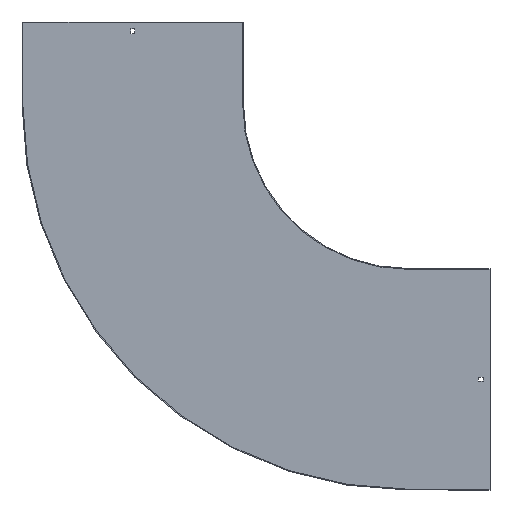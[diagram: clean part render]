
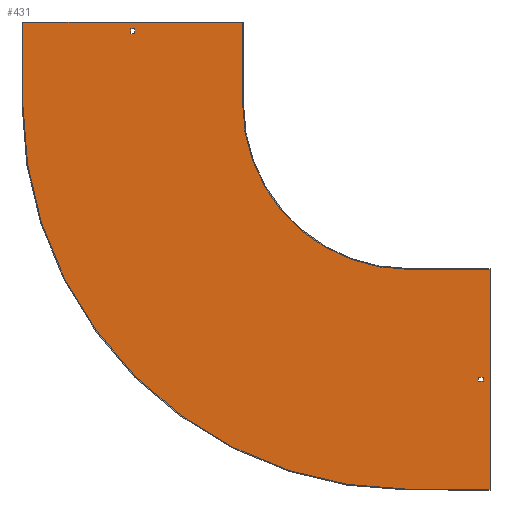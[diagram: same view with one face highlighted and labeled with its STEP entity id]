
A CAD part, front view. The second image highlights one B-rep face of the part: STEP entity #431.
In plain terms, the highlighted planar face has unit normal (0, -1, 0).
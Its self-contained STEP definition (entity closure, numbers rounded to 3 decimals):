
#2 = CARTESIAN_POINT ( 'NONE',  ( 0., -1.5, 0. ) ) ;
#7 = FACE_BOUND ( 'NONE', #404, .T. ) ;
#10 = EDGE_CURVE ( 'NONE', #283, #754, #175, .T. ) ;
#11 = FACE_BOUND ( 'NONE', #207, .T. ) ;
#24 = VECTOR ( 'NONE', #595, 1000. ) ;
#34 = EDGE_CURVE ( 'NONE', #287, #88, #171, .T. ) ;
#37 = VERTEX_POINT ( 'NONE', #853 ) ;
#40 = VERTEX_POINT ( 'NONE', #235 ) ;
#43 = VERTEX_POINT ( 'NONE', #639 ) ;
#53 = LINE ( 'NONE', #119, #328 ) ;
#56 = CARTESIAN_POINT ( 'NONE',  ( -300., -1.5, 0. ) ) ;
#60 = CARTESIAN_POINT ( 'NONE',  ( 138., -1.5, 0. ) ) ;
#62 = VERTEX_POINT ( 'NONE', #634 ) ;
#63 = DIRECTION ( 'NONE',  ( 0., 0., 1. ) ) ;
#67 = VECTOR ( 'NONE', #274, 1000. ) ;
#69 = CARTESIAN_POINT ( 'NONE',  ( -503.25, -1.5, 129. ) ) ;
#75 = CARTESIAN_POINT ( 'NONE',  ( 150., -1.5, -298.5 ) ) ;
#88 = VERTEX_POINT ( 'NONE', #658 ) ;
#102 = VERTEX_POINT ( 'NONE', #402 ) ;
#112 = CARTESIAN_POINT ( 'NONE',  ( 0., -1.5, 0. ) ) ;
#113 = CARTESIAN_POINT ( 'NONE',  ( 129., -1.5, -503.25 ) ) ;
#119 = CARTESIAN_POINT ( 'NONE',  ( -503.25, -1.5, 0. ) ) ;
#139 = LINE ( 'NONE', #418, #712 ) ;
#157 = ORIENTED_EDGE ( 'NONE', *, *, #823, .T. ) ;
#159 = AXIS2_PLACEMENT_3D ( 'NONE', #112, #371, #838 ) ;
#164 = EDGE_CURVE ( 'NONE', #40, #37, #315, .T. ) ;
#171 = CIRCLE ( 'NONE', #159, 300. ) ;
#175 = LINE ( 'NONE', #447, #652 ) ;
#188 = VERTEX_POINT ( 'NONE', #467 ) ;
#191 = CARTESIAN_POINT ( 'NONE',  ( 0., -1.5, -700. ) ) ;
#207 = EDGE_LOOP ( 'NONE', ( #157, #261, #301, #381 ) ) ;
#212 = DIRECTION ( 'NONE',  ( 0., 0., -1. ) ) ;
#217 = CARTESIAN_POINT ( 'NONE',  ( 0., -1.5, -503.25 ) ) ;
#221 = ORIENTED_EDGE ( 'NONE', *, *, #500, .F. ) ;
#230 = VECTOR ( 'NONE', #396, 1000. ) ;
#235 = CARTESIAN_POINT ( 'NONE',  ( 138., -1.5, -503.25 ) ) ;
#249 = VECTOR ( 'NONE', #527, 1000. ) ;
#250 = LINE ( 'NONE', #805, #249 ) ;
#251 = VECTOR ( 'NONE', #629, 1000. ) ;
#261 = ORIENTED_EDGE ( 'NONE', *, *, #451, .T. ) ;
#262 = DIRECTION ( 'NONE',  ( 0., -1., 0. ) ) ;
#274 = DIRECTION ( 'NONE',  ( 0., 0., -1. ) ) ;
#277 = AXIS2_PLACEMENT_3D ( 'NONE', #327, #743, #609 ) ;
#283 = VERTEX_POINT ( 'NONE', #468 ) ;
#286 = EDGE_CURVE ( 'NONE', #539, #708, #550, .T. ) ;
#287 = VERTEX_POINT ( 'NONE', #56 ) ;
#288 = VECTOR ( 'NONE', #305, 1000. ) ;
#289 = LINE ( 'NONE', #464, #427 ) ;
#301 = ORIENTED_EDGE ( 'NONE', *, *, #651, .T. ) ;
#302 = VERTEX_POINT ( 'NONE', #463 ) ;
#305 = DIRECTION ( 'NONE',  ( -1., 0., 0. ) ) ;
#315 = LINE ( 'NONE', #60, #230 ) ;
#323 = ORIENTED_EDGE ( 'NONE', *, *, #34, .F. ) ;
#326 = VECTOR ( 'NONE', #759, 1000. ) ;
#327 = CARTESIAN_POINT ( 'NONE',  ( 0., -1.5, 0. ) ) ;
#328 = VECTOR ( 'NONE', #63, 1000. ) ;
#341 = ORIENTED_EDGE ( 'NONE', *, *, #10, .F. ) ;
#347 = ORIENTED_EDGE ( 'NONE', *, *, #675, .F. ) ;
#350 = CARTESIAN_POINT ( 'NONE',  ( -700., -1.5, 0. ) ) ;
#351 = FACE_OUTER_BOUND ( 'NONE', #619, .T. ) ;
#355 = EDGE_CURVE ( 'NONE', #88, #62, #530, .T. ) ;
#361 = ORIENTED_EDGE ( 'NONE', *, *, #164, .F. ) ;
#368 = ORIENTED_EDGE ( 'NONE', *, *, #286, .F. ) ;
#371 = DIRECTION ( 'NONE',  ( 0., -1., 0. ) ) ;
#381 = ORIENTED_EDGE ( 'NONE', *, *, #767, .T. ) ;
#384 = CARTESIAN_POINT ( 'NONE',  ( 0., -1.5, -300. ) ) ;
#396 = DIRECTION ( 'NONE',  ( 0., 0., 1. ) ) ;
#402 = CARTESIAN_POINT ( 'NONE',  ( 150., -1.5, -700. ) ) ;
#404 = EDGE_LOOP ( 'NONE', ( #221, #361, #347, #341 ) ) ;
#418 = CARTESIAN_POINT ( 'NONE',  ( 0., -1.5, 129. ) ) ;
#427 = VECTOR ( 'NONE', #564, 1000. ) ;
#431 = ADVANCED_FACE ( 'NONE', ( #7, #351, #11 ), #729, .T. ) ;
#433 = LINE ( 'NONE', #350, #251 ) ;
#435 = DIRECTION ( 'NONE',  ( 0., 0., -1. ) ) ;
#447 = CARTESIAN_POINT ( 'NONE',  ( 129., -1.5, 0. ) ) ;
#451 = EDGE_CURVE ( 'NONE', #803, #188, #289, .T. ) ;
#453 = LINE ( 'NONE', #589, #633 ) ;
#463 = CARTESIAN_POINT ( 'NONE',  ( -700., -1.5, 0. ) ) ;
#464 = CARTESIAN_POINT ( 'NONE',  ( -496.75, -1.5, 0. ) ) ;
#467 = CARTESIAN_POINT ( 'NONE',  ( -496.75, -1.5, 129. ) ) ;
#468 = CARTESIAN_POINT ( 'NONE',  ( 129., -1.5, -496.75 ) ) ;
#471 = CARTESIAN_POINT ( 'NONE',  ( -496.75, -1.5, 138. ) ) ;
#500 = EDGE_CURVE ( 'NONE', #37, #283, #706, .T. ) ;
#512 = VECTOR ( 'NONE', #751, 1000. ) ;
#513 = ORIENTED_EDGE ( 'NONE', *, *, #820, .F. ) ;
#520 = DIRECTION ( 'NONE',  ( -1., 0., 0. ) ) ;
#527 = DIRECTION ( 'NONE',  ( 0., 0., -1. ) ) ;
#530 = LINE ( 'NONE', #384, #24 ) ;
#539 = VERTEX_POINT ( 'NONE', #673 ) ;
#542 = CARTESIAN_POINT ( 'NONE',  ( -701.5, -1.5, 150. ) ) ;
#545 = ORIENTED_EDGE ( 'NONE', *, *, #596, .F. ) ;
#546 = LINE ( 'NONE', #559, #562 ) ;
#550 = LINE ( 'NONE', #542, #512 ) ;
#559 = CARTESIAN_POINT ( 'NONE',  ( 0., -1.5, 138. ) ) ;
#562 = VECTOR ( 'NONE', #691, 1000. ) ;
#563 = ORIENTED_EDGE ( 'NONE', *, *, #641, .F. ) ;
#564 = DIRECTION ( 'NONE',  ( 0., 0., -1. ) ) ;
#589 = CARTESIAN_POINT ( 'NONE',  ( 150., -1.5, -700. ) ) ;
#595 = DIRECTION ( 'NONE',  ( 1., 0., 0. ) ) ;
#596 = EDGE_CURVE ( 'NONE', #102, #785, #453, .T. ) ;
#601 = CARTESIAN_POINT ( 'NONE',  ( -300., -1.5, 150. ) ) ;
#606 = EDGE_CURVE ( 'NONE', #708, #287, #250, .T. ) ;
#609 = DIRECTION ( 'NONE',  ( 0., 0., -1. ) ) ;
#617 = VERTEX_POINT ( 'NONE', #69 ) ;
#619 = EDGE_LOOP ( 'NONE', ( #368, #621, #563, #545, #513, #836, #323, #777 ) ) ;
#621 = ORIENTED_EDGE ( 'NONE', *, *, #726, .F. ) ;
#629 = DIRECTION ( 'NONE',  ( 0., 0., 1. ) ) ;
#633 = VECTOR ( 'NONE', #520, 1000. ) ;
#634 = CARTESIAN_POINT ( 'NONE',  ( 150., -1.5, -300. ) ) ;
#639 = CARTESIAN_POINT ( 'NONE',  ( -503.25, -1.5, 138. ) ) ;
#641 = EDGE_CURVE ( 'NONE', #785, #302, #812, .T. ) ;
#651 = EDGE_CURVE ( 'NONE', #188, #617, #139, .T. ) ;
#652 = VECTOR ( 'NONE', #435, 1000. ) ;
#658 = CARTESIAN_POINT ( 'NONE',  ( 0., -1.5, -300. ) ) ;
#673 = CARTESIAN_POINT ( 'NONE',  ( -700., -1.5, 150. ) ) ;
#675 = EDGE_CURVE ( 'NONE', #754, #40, #824, .T. ) ;
#678 = LINE ( 'NONE', #75, #67 ) ;
#691 = DIRECTION ( 'NONE',  ( 1., 0., 0. ) ) ;
#706 = LINE ( 'NONE', #770, #288 ) ;
#708 = VERTEX_POINT ( 'NONE', #601 ) ;
#712 = VECTOR ( 'NONE', #828, 1000. ) ;
#726 = EDGE_CURVE ( 'NONE', #302, #539, #433, .T. ) ;
#729 = PLANE ( 'NONE',  #850 ) ;
#743 = DIRECTION ( 'NONE',  ( 0., 1., 0. ) ) ;
#751 = DIRECTION ( 'NONE',  ( 1., 0., 0. ) ) ;
#754 = VERTEX_POINT ( 'NONE', #113 ) ;
#759 = DIRECTION ( 'NONE',  ( 1., 0., 0. ) ) ;
#767 = EDGE_CURVE ( 'NONE', #617, #43, #53, .T. ) ;
#770 = CARTESIAN_POINT ( 'NONE',  ( 0., -1.5, -496.75 ) ) ;
#777 = ORIENTED_EDGE ( 'NONE', *, *, #606, .F. ) ;
#785 = VERTEX_POINT ( 'NONE', #191 ) ;
#803 = VERTEX_POINT ( 'NONE', #471 ) ;
#805 = CARTESIAN_POINT ( 'NONE',  ( -300., -1.5, 150. ) ) ;
#812 = CIRCLE ( 'NONE', #277, 700. ) ;
#820 = EDGE_CURVE ( 'NONE', #62, #102, #678, .T. ) ;
#823 = EDGE_CURVE ( 'NONE', #43, #803, #546, .T. ) ;
#824 = LINE ( 'NONE', #217, #326 ) ;
#828 = DIRECTION ( 'NONE',  ( -1., 0., 0. ) ) ;
#836 = ORIENTED_EDGE ( 'NONE', *, *, #355, .F. ) ;
#838 = DIRECTION ( 'NONE',  ( 0., 0., -1. ) ) ;
#850 = AXIS2_PLACEMENT_3D ( 'NONE', #2, #262, #212 ) ;
#853 = CARTESIAN_POINT ( 'NONE',  ( 138., -1.5, -496.75 ) ) ;
